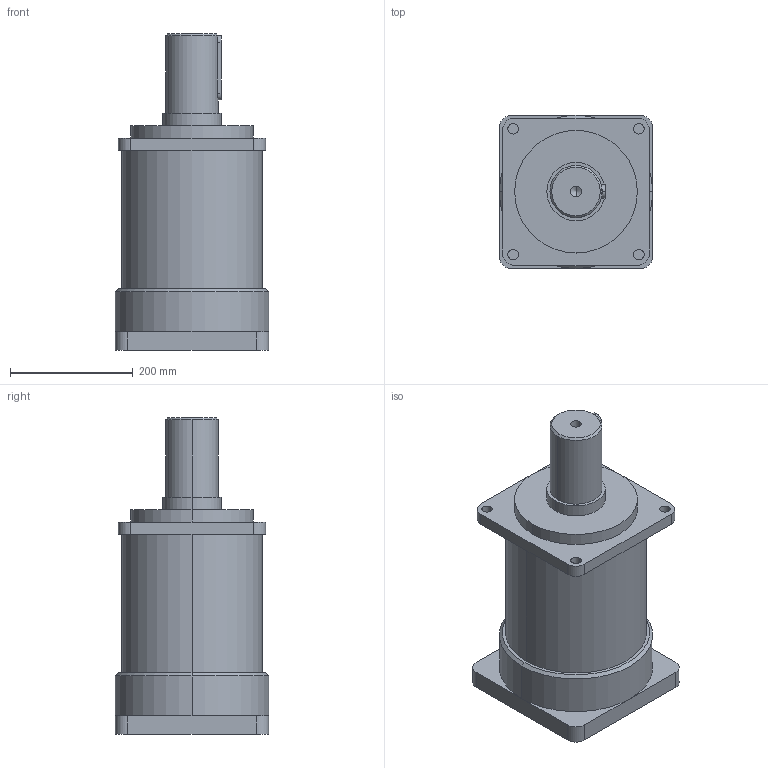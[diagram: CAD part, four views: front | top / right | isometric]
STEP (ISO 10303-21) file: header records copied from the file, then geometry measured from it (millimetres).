
FILE_DESCRIPTION (( 'STEP AP214' ), '1' );
FILE_NAME ('VRS-240-L2.STEP', '2019-08-31T08:23:34', ( '微软用户' ), ( '微软中国' ), 'SwSTEP 2.0', 'SolidWorks 2014', '' );
FILE_SCHEMA (( 'AUTOMOTIVE_DESIGN' ));
Length unit declared in the file: millimetre
Products named in the file (2): VRS-240-L2
Bounding box: 250 x 250 x 516 mm (x, y, z)
Volume: 16724455 mm3; surface area: 498292.4 mm2
Topology: 1 solids, 1 shells, 706 faces, 2014 edges, 1331 vertices
Faces by surface type: plane 589, bspline 60, cylinder 43, cone 14
Entity records: 29847 total; most frequent: CARTESIAN_POINT 4923, ORIENTED_EDGE 4008, DIRECTION 3267, EDGE_CURVE 2004, VECTOR 1789, LINE 1789, VERTEX_POINT 1331, EDGE_LOOP 745
